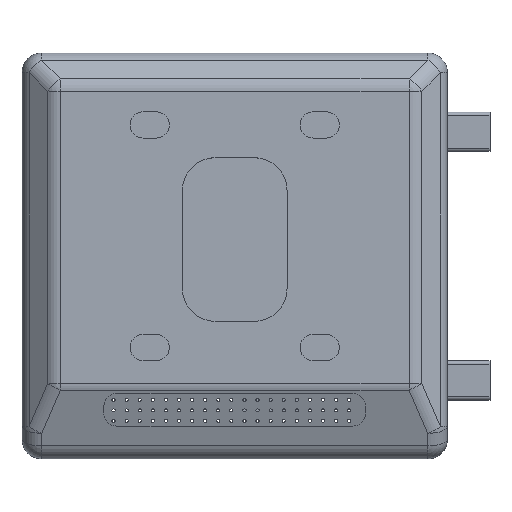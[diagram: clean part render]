
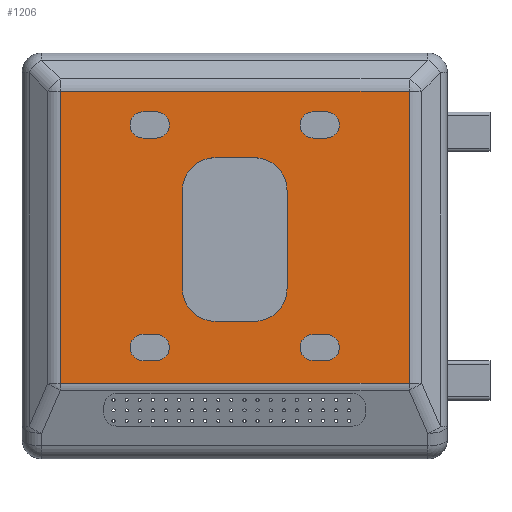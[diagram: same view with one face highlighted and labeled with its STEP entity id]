
A CAD part, top view. The second image highlights one B-rep face of the part: STEP entity #1206.
In plain terms, the highlighted planar face has unit normal (0, 0, 1).
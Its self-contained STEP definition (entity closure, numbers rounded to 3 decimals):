
#1206=ADVANCED_FACE('',(#1798,#1799,#1800,#1801,#1802,#1803),#1613,.T.);
#1613=PLANE('',#7824);
#1798=FACE_BOUND('',#2139,.T.);
#1799=FACE_BOUND('',#2140,.T.);
#1800=FACE_BOUND('',#2141,.T.);
#1801=FACE_BOUND('',#2142,.T.);
#1802=FACE_BOUND('',#2143,.T.);
#1803=FACE_BOUND('',#2144,.T.);
#2139=EDGE_LOOP('',(#3302,#3303,#3304,#3305));
#2140=EDGE_LOOP('',(#3306,#3307,#3308,#3309,#3310,#3311,#3312,#3313));
#2141=EDGE_LOOP('',(#3314,#3315,#3316,#3317));
#2142=EDGE_LOOP('',(#3318,#3319,#3320,#3321));
#2143=EDGE_LOOP('',(#3322,#3323,#3324,#3325));
#2144=EDGE_LOOP('',(#3326,#3327,#3328,#3329));
#2789=CIRCLE('',#7812,5.);
#2790=CIRCLE('',#7813,5.);
#2791=CIRCLE('',#7814,5.);
#2792=CIRCLE('',#7815,5.);
#2793=CIRCLE('',#7816,2.);
#2794=CIRCLE('',#7817,2.);
#2795=CIRCLE('',#7818,2.);
#2796=CIRCLE('',#7819,2.);
#2797=CIRCLE('',#7820,2.);
#2798=CIRCLE('',#7821,2.);
#2799=CIRCLE('',#7822,2.);
#2800=CIRCLE('',#7823,2.);
#3302=ORIENTED_EDGE('',*,*,#5933,.T.);
#3303=ORIENTED_EDGE('',*,*,#5934,.T.);
#3304=ORIENTED_EDGE('',*,*,#5935,.T.);
#3305=ORIENTED_EDGE('',*,*,#5936,.T.);
#3306=ORIENTED_EDGE('',*,*,#5937,.T.);
#3307=ORIENTED_EDGE('',*,*,#5938,.T.);
#3308=ORIENTED_EDGE('',*,*,#5939,.T.);
#3309=ORIENTED_EDGE('',*,*,#5940,.T.);
#3310=ORIENTED_EDGE('',*,*,#5941,.T.);
#3311=ORIENTED_EDGE('',*,*,#5942,.T.);
#3312=ORIENTED_EDGE('',*,*,#5943,.T.);
#3313=ORIENTED_EDGE('',*,*,#5944,.T.);
#3314=ORIENTED_EDGE('',*,*,#5945,.T.);
#3315=ORIENTED_EDGE('',*,*,#5946,.T.);
#3316=ORIENTED_EDGE('',*,*,#5947,.T.);
#3317=ORIENTED_EDGE('',*,*,#5948,.T.);
#3318=ORIENTED_EDGE('',*,*,#5949,.T.);
#3319=ORIENTED_EDGE('',*,*,#5950,.T.);
#3320=ORIENTED_EDGE('',*,*,#5951,.T.);
#3321=ORIENTED_EDGE('',*,*,#5952,.T.);
#3322=ORIENTED_EDGE('',*,*,#5953,.T.);
#3323=ORIENTED_EDGE('',*,*,#5954,.T.);
#3324=ORIENTED_EDGE('',*,*,#5955,.T.);
#3325=ORIENTED_EDGE('',*,*,#5956,.T.);
#3326=ORIENTED_EDGE('',*,*,#5957,.T.);
#3327=ORIENTED_EDGE('',*,*,#5958,.T.);
#3328=ORIENTED_EDGE('',*,*,#5959,.T.);
#3329=ORIENTED_EDGE('',*,*,#5960,.T.);
#5209=VERTEX_POINT('',#10680);
#5210=VERTEX_POINT('',#10681);
#5211=VERTEX_POINT('',#10683);
#5212=VERTEX_POINT('',#10685);
#5213=VERTEX_POINT('',#10688);
#5214=VERTEX_POINT('',#10689);
#5215=VERTEX_POINT('',#10691);
#5216=VERTEX_POINT('',#10693);
#5217=VERTEX_POINT('',#10695);
#5218=VERTEX_POINT('',#10697);
#5219=VERTEX_POINT('',#10699);
#5220=VERTEX_POINT('',#10701);
#5221=VERTEX_POINT('',#10704);
#5222=VERTEX_POINT('',#10705);
#5223=VERTEX_POINT('',#10707);
#5224=VERTEX_POINT('',#10709);
#5225=VERTEX_POINT('',#10712);
#5226=VERTEX_POINT('',#10713);
#5227=VERTEX_POINT('',#10715);
#5228=VERTEX_POINT('',#10717);
#5229=VERTEX_POINT('',#10720);
#5230=VERTEX_POINT('',#10721);
#5231=VERTEX_POINT('',#10723);
#5232=VERTEX_POINT('',#10725);
#5233=VERTEX_POINT('',#10728);
#5234=VERTEX_POINT('',#10729);
#5235=VERTEX_POINT('',#10731);
#5236=VERTEX_POINT('',#10733);
#5933=EDGE_CURVE('',#5209,#5210,#6841,.T.);
#5934=EDGE_CURVE('',#5210,#5211,#6842,.T.);
#5935=EDGE_CURVE('',#5211,#5212,#6843,.T.);
#5936=EDGE_CURVE('',#5212,#5209,#6844,.T.);
#5937=EDGE_CURVE('',#5213,#5214,#6845,.T.);
#5938=EDGE_CURVE('',#5214,#5215,#2789,.T.);
#5939=EDGE_CURVE('',#5215,#5216,#6846,.T.);
#5940=EDGE_CURVE('',#5216,#5217,#2790,.T.);
#5941=EDGE_CURVE('',#5217,#5218,#6847,.T.);
#5942=EDGE_CURVE('',#5218,#5219,#2791,.T.);
#5943=EDGE_CURVE('',#5219,#5220,#6848,.T.);
#5944=EDGE_CURVE('',#5220,#5213,#2792,.T.);
#5945=EDGE_CURVE('',#5221,#5222,#2793,.T.);
#5946=EDGE_CURVE('',#5222,#5223,#6849,.T.);
#5947=EDGE_CURVE('',#5223,#5224,#2794,.T.);
#5948=EDGE_CURVE('',#5224,#5221,#6850,.T.);
#5949=EDGE_CURVE('',#5225,#5226,#2795,.T.);
#5950=EDGE_CURVE('',#5226,#5227,#6851,.T.);
#5951=EDGE_CURVE('',#5227,#5228,#2796,.T.);
#5952=EDGE_CURVE('',#5228,#5225,#6852,.T.);
#5953=EDGE_CURVE('',#5229,#5230,#2797,.T.);
#5954=EDGE_CURVE('',#5230,#5231,#6853,.T.);
#5955=EDGE_CURVE('',#5231,#5232,#2798,.T.);
#5956=EDGE_CURVE('',#5232,#5229,#6854,.T.);
#5957=EDGE_CURVE('',#5233,#5234,#2799,.T.);
#5958=EDGE_CURVE('',#5234,#5235,#6855,.T.);
#5959=EDGE_CURVE('',#5235,#5236,#2800,.T.);
#5960=EDGE_CURVE('',#5236,#5233,#6856,.T.);
#6841=LINE('',#10679,#7316);
#6842=LINE('',#10682,#7317);
#6843=LINE('',#10684,#7318);
#6844=LINE('',#10686,#7319);
#6845=LINE('',#10687,#7320);
#6846=LINE('',#10692,#7321);
#6847=LINE('',#10696,#7322);
#6848=LINE('',#10700,#7323);
#6849=LINE('',#10706,#7324);
#6850=LINE('',#10710,#7325);
#6851=LINE('',#10714,#7326);
#6852=LINE('',#10718,#7327);
#6853=LINE('',#10722,#7328);
#6854=LINE('',#10726,#7329);
#6855=LINE('',#10730,#7330);
#6856=LINE('',#10734,#7331);
#7316=VECTOR('',#8729,1.);
#7317=VECTOR('',#8730,1.);
#7318=VECTOR('',#8731,1.);
#7319=VECTOR('',#8732,1.);
#7320=VECTOR('',#8733,1.);
#7321=VECTOR('',#8736,1.);
#7322=VECTOR('',#8739,1.);
#7323=VECTOR('',#8742,1.);
#7324=VECTOR('',#8747,1.);
#7325=VECTOR('',#8750,1.);
#7326=VECTOR('',#8753,1.);
#7327=VECTOR('',#8756,1.);
#7328=VECTOR('',#8759,1.);
#7329=VECTOR('',#8762,1.);
#7330=VECTOR('',#8765,1.);
#7331=VECTOR('',#8768,1.);
#7812=AXIS2_PLACEMENT_3D('',#10690,#8734,#8735);
#7813=AXIS2_PLACEMENT_3D('',#10694,#8737,#8738);
#7814=AXIS2_PLACEMENT_3D('',#10698,#8740,#8741);
#7815=AXIS2_PLACEMENT_3D('',#10702,#8743,#8744);
#7816=AXIS2_PLACEMENT_3D('',#10703,#8745,#8746);
#7817=AXIS2_PLACEMENT_3D('',#10708,#8748,#8749);
#7818=AXIS2_PLACEMENT_3D('',#10711,#8751,#8752);
#7819=AXIS2_PLACEMENT_3D('',#10716,#8754,#8755);
#7820=AXIS2_PLACEMENT_3D('',#10719,#8757,#8758);
#7821=AXIS2_PLACEMENT_3D('',#10724,#8760,#8761);
#7822=AXIS2_PLACEMENT_3D('',#10727,#8763,#8764);
#7823=AXIS2_PLACEMENT_3D('',#10732,#8766,#8767);
#7824=AXIS2_PLACEMENT_3D('',#10735,#8769,#8770);
#8729=DIRECTION('',(-1.,0.,0.));
#8730=DIRECTION('',(0.,-1.,0.));
#8731=DIRECTION('',(1.,0.,0.));
#8732=DIRECTION('',(0.,1.,0.));
#8733=DIRECTION('',(0.,-1.,0.));
#8734=DIRECTION('',(0.,0.,-1.));
#8735=DIRECTION('',(1.,0.,0.));
#8736=DIRECTION('',(-1.,0.,0.));
#8737=DIRECTION('',(0.,0.,-1.));
#8738=DIRECTION('',(1.,0.,0.));
#8739=DIRECTION('',(0.,1.,0.));
#8740=DIRECTION('',(0.,0.,-1.));
#8741=DIRECTION('',(1.,0.,0.));
#8742=DIRECTION('',(1.,0.,0.));
#8743=DIRECTION('',(0.,0.,-1.));
#8744=DIRECTION('',(1.,0.,0.));
#8745=DIRECTION('',(0.,0.,-1.));
#8746=DIRECTION('',(1.,0.,0.));
#8747=DIRECTION('',(-1.,0.,0.));
#8748=DIRECTION('',(0.,0.,-1.));
#8749=DIRECTION('',(1.,0.,0.));
#8750=DIRECTION('',(1.,0.,0.));
#8751=DIRECTION('',(0.,0.,-1.));
#8752=DIRECTION('',(1.,0.,0.));
#8753=DIRECTION('',(-1.,0.,0.));
#8754=DIRECTION('',(0.,0.,-1.));
#8755=DIRECTION('',(1.,0.,0.));
#8756=DIRECTION('',(1.,0.,0.));
#8757=DIRECTION('',(0.,0.,-1.));
#8758=DIRECTION('',(1.,0.,0.));
#8759=DIRECTION('',(-1.,0.,0.));
#8760=DIRECTION('',(0.,0.,-1.));
#8761=DIRECTION('',(1.,0.,0.));
#8762=DIRECTION('',(1.,0.,0.));
#8763=DIRECTION('',(0.,0.,-1.));
#8764=DIRECTION('',(1.,0.,0.));
#8765=DIRECTION('',(-1.,0.,0.));
#8766=DIRECTION('',(0.,0.,-1.));
#8767=DIRECTION('',(1.,0.,0.));
#8768=DIRECTION('',(1.,0.,0.));
#8769=DIRECTION('',(0.,0.,1.));
#8770=DIRECTION('',(1.,0.,0.));
#10679=CARTESIAN_POINT('',(0.,25.141,18.));
#10680=CARTESIAN_POINT('',(26.641,25.141,18.));
#10681=CARTESIAN_POINT('',(-26.641,25.141,18.));
#10682=CARTESIAN_POINT('',(-26.641,0.,18.));
#10683=CARTESIAN_POINT('',(-26.641,-19.481,18.));
#10684=CARTESIAN_POINT('',(0.,-19.481,18.));
#10685=CARTESIAN_POINT('',(26.641,-19.481,18.));
#10686=CARTESIAN_POINT('',(26.641,0.,18.));
#10687=CARTESIAN_POINT('',(8.,0.,18.));
#10688=CARTESIAN_POINT('',(8.,10.,18.));
#10689=CARTESIAN_POINT('',(8.,-5.,18.));
#10690=CARTESIAN_POINT('',(3.,-5.,18.));
#10691=CARTESIAN_POINT('',(3.,-10.,18.));
#10692=CARTESIAN_POINT('',(0.,-10.,18.));
#10693=CARTESIAN_POINT('',(-3.,-10.,18.));
#10694=CARTESIAN_POINT('',(-3.,-5.,18.));
#10695=CARTESIAN_POINT('',(-8.,-5.,18.));
#10696=CARTESIAN_POINT('',(-8.,0.,18.));
#10697=CARTESIAN_POINT('',(-8.,10.,18.));
#10698=CARTESIAN_POINT('',(-3.,10.,18.));
#10699=CARTESIAN_POINT('',(-3.,15.,18.));
#10700=CARTESIAN_POINT('',(0.,15.,18.));
#10701=CARTESIAN_POINT('',(3.,15.,18.));
#10702=CARTESIAN_POINT('',(3.,10.,18.));
#10703=CARTESIAN_POINT('',(-12.,-14.,18.));
#10704=CARTESIAN_POINT('',(-12.,-12.,18.));
#10705=CARTESIAN_POINT('',(-12.,-16.,18.));
#10706=CARTESIAN_POINT('',(0.,-16.,18.));
#10707=CARTESIAN_POINT('',(-14.,-16.,18.));
#10708=CARTESIAN_POINT('',(-14.,-14.,18.));
#10709=CARTESIAN_POINT('',(-14.,-12.,18.));
#10710=CARTESIAN_POINT('',(0.,-12.,18.));
#10711=CARTESIAN_POINT('',(14.,-14.,18.));
#10712=CARTESIAN_POINT('',(14.,-12.,18.));
#10713=CARTESIAN_POINT('',(14.,-16.,18.));
#10714=CARTESIAN_POINT('',(0.,-16.,18.));
#10715=CARTESIAN_POINT('',(12.,-16.,18.));
#10716=CARTESIAN_POINT('',(12.,-14.,18.));
#10717=CARTESIAN_POINT('',(12.,-12.,18.));
#10718=CARTESIAN_POINT('',(0.,-12.,18.));
#10719=CARTESIAN_POINT('',(-12.,20.,18.));
#10720=CARTESIAN_POINT('',(-12.,22.,18.));
#10721=CARTESIAN_POINT('',(-12.,18.,18.));
#10722=CARTESIAN_POINT('',(0.,18.,18.));
#10723=CARTESIAN_POINT('',(-14.,18.,18.));
#10724=CARTESIAN_POINT('',(-14.,20.,18.));
#10725=CARTESIAN_POINT('',(-14.,22.,18.));
#10726=CARTESIAN_POINT('',(0.,22.,18.));
#10727=CARTESIAN_POINT('',(14.,20.,18.));
#10728=CARTESIAN_POINT('',(14.,22.,18.));
#10729=CARTESIAN_POINT('',(14.,18.,18.));
#10730=CARTESIAN_POINT('',(0.,18.,18.));
#10731=CARTESIAN_POINT('',(12.,18.,18.));
#10732=CARTESIAN_POINT('',(12.,20.,18.));
#10733=CARTESIAN_POINT('',(12.,22.,18.));
#10734=CARTESIAN_POINT('',(0.,22.,18.));
#10735=CARTESIAN_POINT('',(0.,0.,18.));
